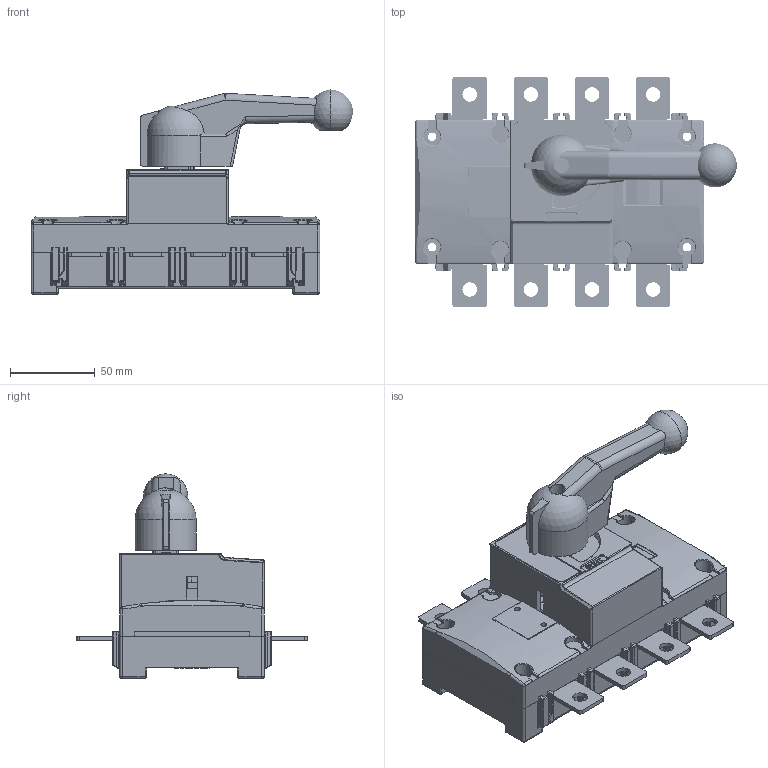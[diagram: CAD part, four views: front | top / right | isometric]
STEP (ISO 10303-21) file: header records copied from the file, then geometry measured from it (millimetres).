
FILE_DESCRIPTION((''),'2;1');
FILE_NAME('NH40_160_4_ASM','2025-03-21T',('zhuanghy'),(''),'CREO PARAMETRIC BY PTC INC, 2018070','CREO PARAMETRIC BY PTC INC, 2018070','');
FILE_SCHEMA(('AUTOMOTIVE_DESIGN { 1 0 10303 214 1 1 1 1 }'));
Products named in the file (14): _____GBT6170_M4_1_2; ____GBT97_1__9_M4_0_8_1_2; _______GBT818__8XM4X18_1_2; PRODUCT_139844; PRODUCT_110418; _____GBT93_4_1_2; PRODUCT_57649; PRODUCT_29002; __________GBT845__8XST4X22_F_11; ________630_1_2; NH40_160_4_1_ASM; PRODUCT_21465; PRT0001; NH40_160_4_ASM
Assembly tree (34 placements, depth 3):
  NH40_160_4_ASM
    NH40_160_4_1_ASM
      _____GBT6170_M4_1_2  x5
      ____GBT97_1__9_M4_0_8_1_2  x4
      _______GBT818__8XM4X18_1_2  x4
      PRODUCT_139844  x8
      PRODUCT_110418
      _____GBT93_4_1_2  x4
      PRODUCT_57649
      PRODUCT_29002
      __________GBT845__8XST4X22_F_11  x2
      ________630_1_2
    PRODUCT_21465
    PRT0001
Bounding box: 189.38 x 135.4 x 120.2 mm (x, y, z)
Volume: 706643.5 mm3; surface area: 166533.2 mm2
Topology: 33 solids, 35 shells, 3047 faces, 7908 edges, 4852 vertices
Faces by surface type: cylinder 1274, plane 1056, bspline 251, torus 157, cone 148, sphere 145, extrusion 16
Entity records: 117169 total; most frequent: CARTESIAN_POINT 53613, ORIENTED_EDGE 11632, DIRECTION 10924, EDGE_CURVE 5816, AXIS2_PLACEMENT_3D 3885, VERTEX_POINT 3616, VECTOR 3154, LINE 3139
